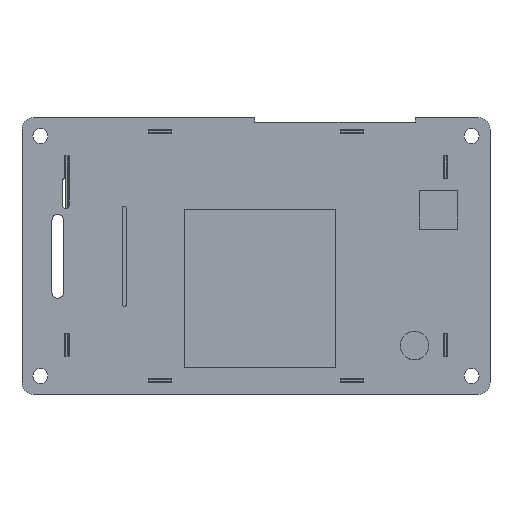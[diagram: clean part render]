
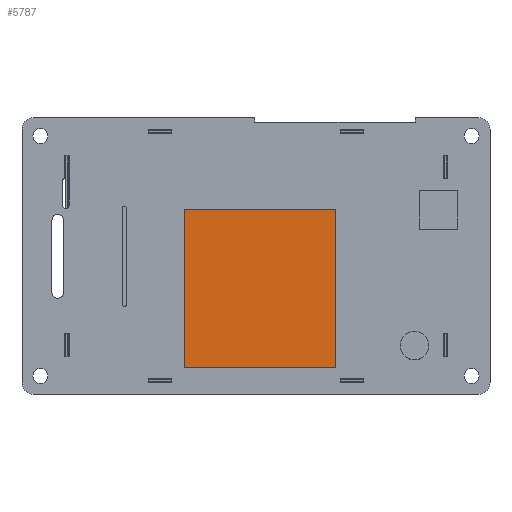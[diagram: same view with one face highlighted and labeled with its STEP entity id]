
A CAD part, top view. The second image highlights one B-rep face of the part: STEP entity #5787.
In plain terms, the highlighted planar face has unit normal (0, 0, 1).
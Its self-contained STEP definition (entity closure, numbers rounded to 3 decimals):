
#2121=DIRECTION('',(0.,1.,0.));
#2122=VECTOR('',#2121,35.);
#2123=CARTESIAN_POINT('',(624.277,288.152,5.2));
#2124=LINE('',#2123,#2122);
#2125=DIRECTION('',(1.,0.,0.));
#2126=VECTOR('',#2125,33.4);
#2127=CARTESIAN_POINT('',(624.277,323.152,5.2));
#2128=LINE('',#2127,#2126);
#2129=DIRECTION('',(0.,-1.,0.));
#2130=VECTOR('',#2129,35.);
#2131=CARTESIAN_POINT('',(657.677,323.152,5.2));
#2132=LINE('',#2131,#2130);
#2133=DIRECTION('',(-1.,0.,0.));
#2134=VECTOR('',#2133,33.4);
#2135=CARTESIAN_POINT('',(657.677,288.152,5.2));
#2136=LINE('',#2135,#2134);
#2846=CARTESIAN_POINT('',(624.277,323.152,5.2));
#2847=VERTEX_POINT('',#2846);
#2848=CARTESIAN_POINT('',(624.277,288.152,5.2));
#2849=VERTEX_POINT('',#2848);
#2850=CARTESIAN_POINT('',(657.677,323.152,5.2));
#2851=VERTEX_POINT('',#2850);
#2852=CARTESIAN_POINT('',(657.677,288.152,5.2));
#2853=VERTEX_POINT('',#2852);
#5776=CARTESIAN_POINT('',(0.,0.,5.2));
#5777=DIRECTION('',(0.,0.,1.));
#5778=DIRECTION('',(1.,0.,0.));
#5779=AXIS2_PLACEMENT_3D('',#5776,#5777,#5778);
#5780=PLANE('',#5779);
#5781=ORIENTED_EDGE('',*,*,#5728,.T.);
#5782=ORIENTED_EDGE('',*,*,#5743,.T.);
#5783=ORIENTED_EDGE('',*,*,#5757,.T.);
#5784=ORIENTED_EDGE('',*,*,#5770,.T.);
#5785=EDGE_LOOP('',(#5781,#5782,#5783,#5784));
#5786=FACE_OUTER_BOUND('',#5785,.F.);
#5728=EDGE_CURVE('',#2849,#2847,#2124,.T.);
#5743=EDGE_CURVE('',#2847,#2851,#2128,.T.);
#5757=EDGE_CURVE('',#2851,#2853,#2132,.T.);
#5770=EDGE_CURVE('',#2853,#2849,#2136,.T.);
#5787=ADVANCED_FACE('',(#5786),#5780,.T.);
